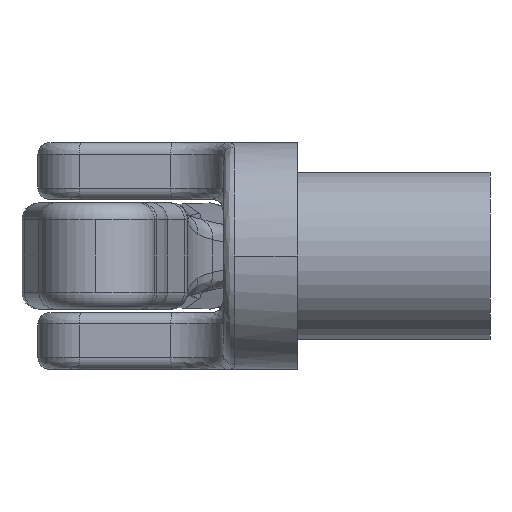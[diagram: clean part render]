
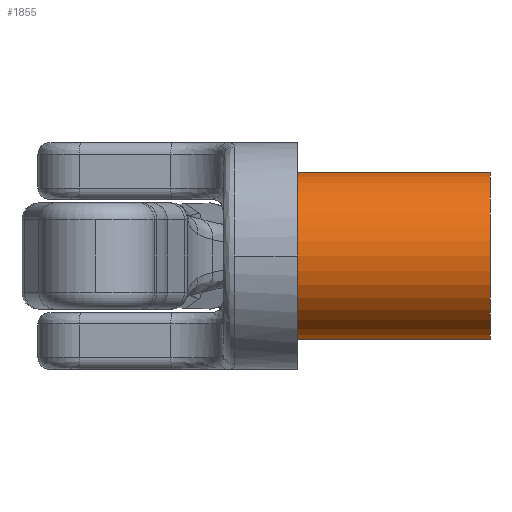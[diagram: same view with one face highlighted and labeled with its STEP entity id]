
A CAD part, left-side view. The second image highlights one B-rep face of the part: STEP entity #1855.
In plain terms, the highlighted cylindrical face has radius 11.837 mm (diameter 23.674 mm), a partial arc.
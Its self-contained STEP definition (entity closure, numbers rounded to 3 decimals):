
#1819 = AXIS2_PLACEMENT_3D ( 'NONE', #2421, #2422, #2423 ) ;
#1820 = AXIS2_PLACEMENT_3D ( 'NONE', #2427, #2428, #2429 ) ;
#1855 = ADVANCED_FACE ( 'NONE', ( #6512 ), #6515, .T. ) ;
#2421 = CARTESIAN_POINT ( 'NONE',  ( -98.093, 71.412, -0.003 ) ) ;
#2422 = DIRECTION ( 'NONE',  ( 0., -1., 0. ) ) ;
#2423 = DIRECTION ( 'NONE',  ( 0., 0., -1. ) ) ;
#2427 = CARTESIAN_POINT ( 'NONE',  ( -98.093, 98.612, -0.003 ) ) ;
#2428 = DIRECTION ( 'NONE',  ( 0., 1., 0. ) ) ;
#2429 = DIRECTION ( 'NONE',  ( 1., 0., 0. ) ) ;
#2476 = CARTESIAN_POINT ( 'NONE',  ( -98.093, 71.412, -11.84 ) ) ;
#2559 = CARTESIAN_POINT ( 'NONE',  ( -98.093, 71.412, 11.834 ) ) ;
#2564 = CARTESIAN_POINT ( 'NONE',  ( -98.093, 98.612, 11.834 ) ) ;
#2578 = CARTESIAN_POINT ( 'NONE',  ( -98.093, 98.612, -11.84 ) ) ;
#2957 = EDGE_LOOP ( 'NONE', ( #8318, #8317, #8315, #8314 ) ) ;
#3224 = EDGE_CURVE ( 'NONE', #6119, #6014, #5166, .T. ) ;
#3226 = EDGE_CURVE ( 'NONE', #6105, #6100, #5167, .T. ) ;
#3508 = EDGE_CURVE ( 'NONE', #6100, #6014, #7898, .T. ) ;
#3511 = EDGE_CURVE ( 'NONE', #6119, #6105, #7900, .T. ) ;
#3548 = AXIS2_PLACEMENT_3D ( 'NONE', #8182, #8175, #8181 ) ;
#4048 = CARTESIAN_POINT ( 'NONE',  ( -98.093, 153.908, -11.84 ) ) ;
#4049 = DIRECTION ( 'NONE',  ( 0., -1., 0. ) ) ;
#4057 = DIRECTION ( 'NONE',  ( 0., -1., 0. ) ) ;
#4058 = CARTESIAN_POINT ( 'NONE',  ( -98.093, 153.908, 11.834 ) ) ;
#5166 = LINE ( 'NONE', #4048, #5168 ) ;
#5167 = LINE ( 'NONE', #4058, #5171 ) ;
#5168 = VECTOR ( 'NONE', #4049, 1000. ) ;
#5171 = VECTOR ( 'NONE', #4057, 1000. ) ;
#6014 = VERTEX_POINT ( 'NONE', #2476 ) ;
#6100 = VERTEX_POINT ( 'NONE', #2559 ) ;
#6105 = VERTEX_POINT ( 'NONE', #2564 ) ;
#6119 = VERTEX_POINT ( 'NONE', #2578 ) ;
#6512 = FACE_OUTER_BOUND ( 'NONE', #2957, .T. ) ;
#6515 = CYLINDRICAL_SURFACE ( 'NONE', #3548, 11.837 ) ;
#7898 = CIRCLE ( 'NONE', #1819, 11.837 ) ;
#7900 = CIRCLE ( 'NONE', #1820, 11.837 ) ;
#8175 = DIRECTION ( 'NONE',  ( 0., -1., 0. ) ) ;
#8181 = DIRECTION ( 'NONE',  ( 0., 0., -1. ) ) ;
#8182 = CARTESIAN_POINT ( 'NONE',  ( -98.093, 153.908, -0.003 ) ) ;
#8314 = ORIENTED_EDGE ( 'NONE', *, *, #3508, .F. ) ;
#8315 = ORIENTED_EDGE ( 'NONE', *, *, #3224, .T. ) ;
#8317 = ORIENTED_EDGE ( 'NONE', *, *, #3511, .F. ) ;
#8318 = ORIENTED_EDGE ( 'NONE', *, *, #3226, .F. ) ;
